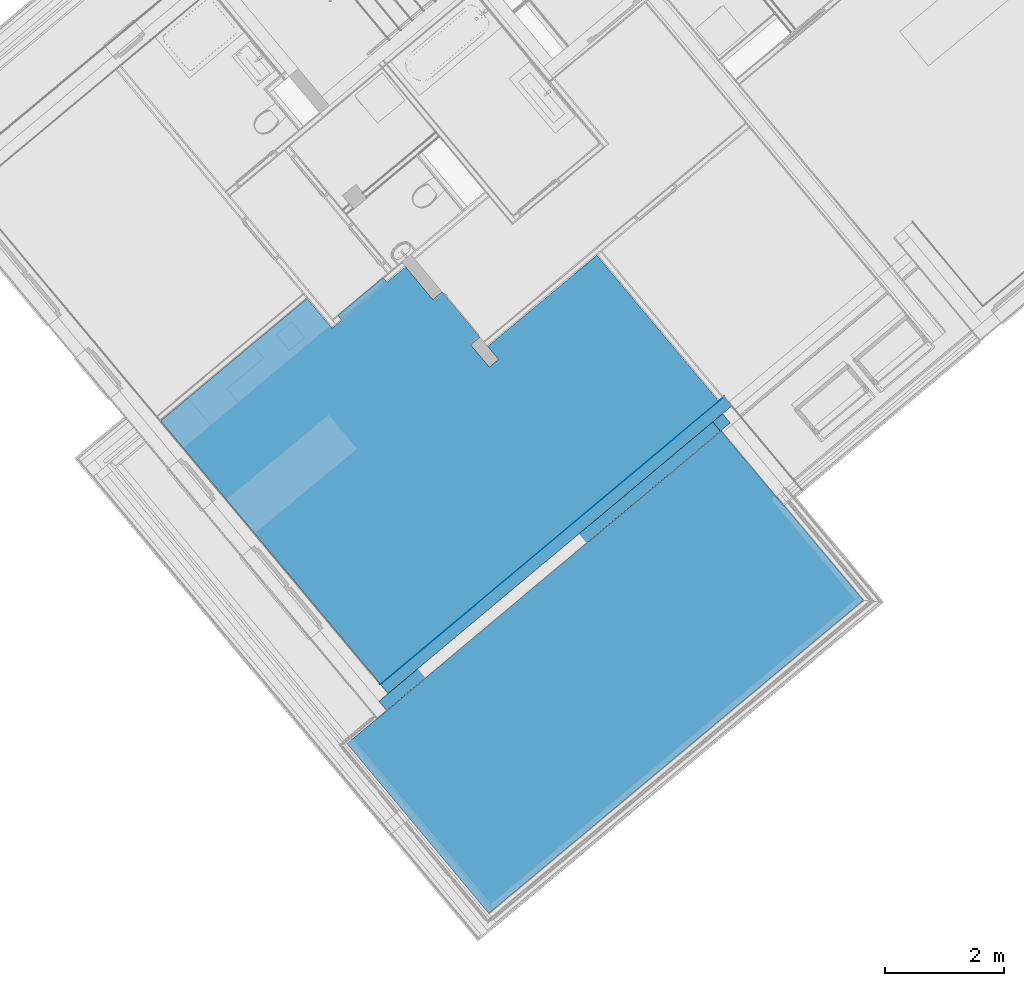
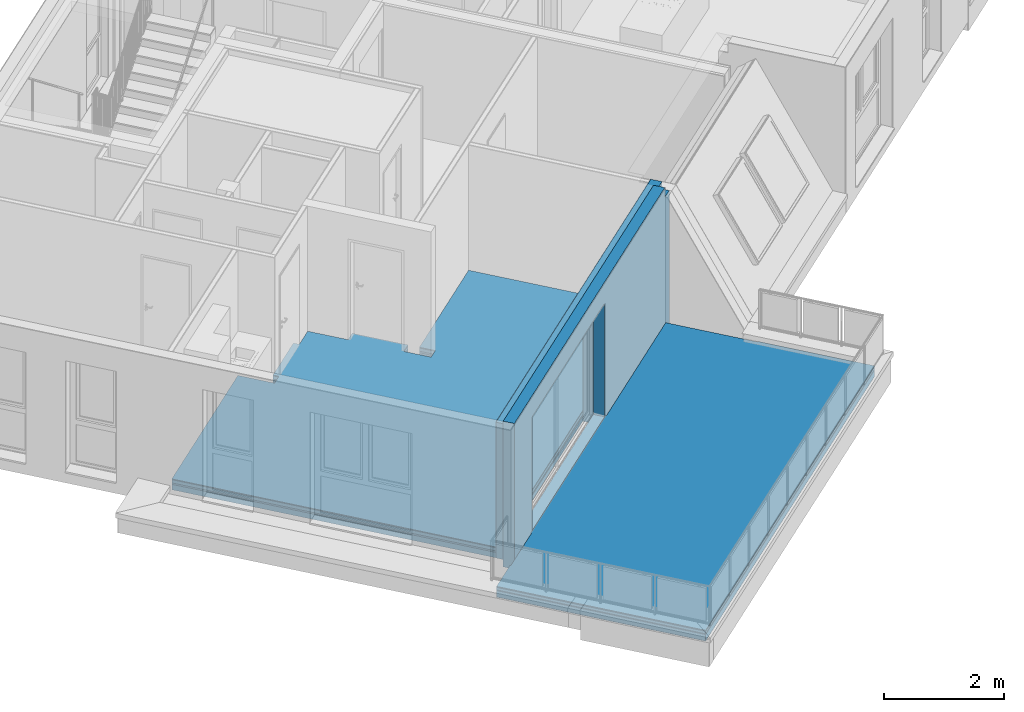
# One storey, part 19 of 58: 12 building element parts, 1 opening, 3 elements without a shape of their own.
"""IFC4 building model written with IfcOpenShell, lengths in metres."""

from ifc_helpers import new_model, entity, si_unit, converted_unit, derived_unit, direction, frame, origin_with_axes, place, context, subcontext, project, spatial, polygons, material, type_object, element, aggregate, save


model = new_model("IFC4")

# Units and contexts
model_context = context("Model", 3, precision=1e-05, world=origin_with_axes(), true_north=direction((0.0, 1.0)))
body_context = subcontext(model_context, "Body", "Model", "MODEL_VIEW")
ifc_project = project(units=[si_unit("LENGTHUNIT", "METRE"), si_unit("AREAUNIT", "SQUARE_METRE"), si_unit("VOLUMEUNIT", "CUBIC_METRE"), converted_unit("PLANEANGLEUNIT", "DEGREE", entity("IfcPlaneAngleMeasure", 0.0174532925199), si_unit("PLANEANGLEUNIT", "RADIAN"), dimensions=[0, 0, 0, 0, 0, 0, 0]), converted_unit("TIMEUNIT", "Year", entity("IfcTimeMeasure", 31556926.0), si_unit("TIMEUNIT", "SECOND"), dimensions=[0, 0, 1, 0, 0, 0, 0]), si_unit("MASSUNIT", "GRAM", prefix="KILO"), si_unit("THERMODYNAMICTEMPERATUREUNIT", "DEGREE_CELSIUS"), si_unit("LUMINOUSINTENSITYUNIT", "LUMEN"), si_unit("ENERGYUNIT", "JOULE", prefix="MEGA"), derived_unit("THERMALCONDUCTANCEUNIT", [(si_unit("POWERUNIT", "WATT"), 1), (si_unit("LENGTHUNIT", "METRE"), -1), (si_unit("THERMODYNAMICTEMPERATUREUNIT", "KELVIN"), -1)]), derived_unit("SPECIFICHEATCAPACITYUNIT", [(si_unit("ENERGYUNIT", "JOULE"), 1), (si_unit("MASSUNIT", "GRAM", prefix="KILO"), -1), (si_unit("THERMODYNAMICTEMPERATUREUNIT", "KELVIN"), -1)]), derived_unit("MASSDENSITYUNIT", [(si_unit("MASSUNIT", "GRAM", prefix="KILO"), 1), (si_unit("VOLUMEUNIT", "CUBIC_METRE"), -1)])], contexts=[model_context])

# Site, building, storey
site_placement = place(None, frame((-0.00153261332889, -0.00661245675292, 0.0), z_axis=(0.0, 0.0, 1.0), x_axis=(1.0, 0.0, 0.0)))
site = spatial("IfcSite", under=ifc_project, at=site_placement, Name="Site", CompositionType="ELEMENT")
building_placement = place(site_placement, origin_with_axes())
building = spatial("IfcBuilding", under=site, at=building_placement, Name="Building", CompositionType="ELEMENT")
storey_placement = place(building_placement, frame((0.0, 0.0, 5.7), z_axis=(0.0, 0.0, 1.0), x_axis=(1.0, 0.0, 0.0)))
storey = spatial("IfcBuildingStorey", under=building, at=storey_placement, Name="DG1", CompositionType="ELEMENT", Elevation=5.7)

# Wall, opening, building element parts
wall_type = type_object("IfcWallType", Name="AW EG 420", PredefinedType="NOTDEFINED")
wall_placement = place(storey_placement, frame((4.49965389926, 14.9497476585, 0.0), z_axis=(0.0, 0.0, 1.0), x_axis=(-0.766948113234, -0.641709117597, 0.0)))
wall = element("IfcWall", 1, at=wall_placement, inside=storey, type_object=wall_type, Name="Wand-002", PredefinedType="NOTDEFINED")
opening_placement = place(wall_placement, frame((4.68267663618, 0.0, 0.22), z_axis=(0.0, 0.0, 1.0), x_axis=(1.0, 0.0, 0.0)))
element("IfcOpeningElement", 2, at=opening_placement, cuts=wall, Name="Tür-001", context=body_context, identifier="Reference", shape_type="Tessellation", body=[
    polygons([(-1.76598893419, -0.215, 0.0), (-1.76598893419, -0.215, 2.31), (-1.76598893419, 3.69570777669, 2.31), (-1.76598893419, 3.69570777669, 0.0), (1.81598893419, -0.215, -0.22), (-1.81598893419, -0.215, -0.22), (-1.81598893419, -0.215, 2.36), (1.81598893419, -0.215, 2.36), (1.76598893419, -0.215, 2.31), (1.76598893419, -0.215, 0.0), (1.76598893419, 3.69570777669, 2.31), (1.76598893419, 3.69570777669, 0.0), (1.81598893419, -4.11570777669, -0.22), (-1.81598893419, -4.11570777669, -0.22), (-1.81598893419, -4.11570777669, 2.36), (1.81598893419, -4.11570777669, 2.36)], [[[1, 2, 3, 4]], [[5, 6, 7, 8], [9, 2, 1, 10]], [[2, 9, 11, 3]], [[11, 12, 4, 3]], [[10, 1, 4, 12]], [[6, 5, 13, 14]], [[7, 6, 14, 15]], [[8, 7, 15, 16]], [[5, 8, 16, 13]], [[9, 10, 12, 11]], [[15, 14, 13, 16]]], closed=True),
])
ifc_material_1 = material(Name="EPS 1")
building_element_part_1_placement = place(wall_placement, origin_with_axes())
building_element_part_1 = element("IfcBuildingElementPart", 3, at=building_element_part_1_placement, material=ifc_material_1, Name="EPS 1", PredefinedType="NOTDEFINED", context=body_context, shape_type="Tessellation", body=[
    polygons([(7.29202390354, -0.215, 0.0), (7.29202390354, -0.214999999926, 2.95999999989), (0.0, -0.214999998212, 2.95999999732), (0.0, -0.214999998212, 2.76), (-0.214988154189, -0.214999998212, 2.76), (-0.214988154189, -0.215, 0.0), (6.44866557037, -0.215, 0.22), (2.91668770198, -0.215, 0.22), (2.91668770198, -0.215, 2.53), (6.44866557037, -0.215, 2.53), (7.29215414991, -0.015, 0.0), (7.29215414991, -0.015000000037, 2.95999999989), (0.0, -0.0150000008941, 2.95999999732), (0.0, -0.0150000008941, 2.76), (-0.214999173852, -0.0150000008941, 2.76), (-0.214999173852, -0.015, 0.0), (6.44866557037, -0.015, 0.22), (2.91668770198, -0.015, 0.22), (2.91668770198, -0.015, 2.53), (6.44866557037, -0.015, 2.53)], [[[1, 2, 3, 4, 5, 6], [7, 8, 9, 10]], [[11, 12, 2, 1]], [[12, 13, 3, 2]], [[4, 3, 13, 14]], [[15, 5, 4, 14]], [[5, 15, 16, 6]], [[6, 16, 11, 1]], [[17, 18, 8, 7]], [[18, 19, 9, 8]], [[19, 20, 10, 9]], [[20, 17, 7, 10]], [[14, 13, 12, 11, 16, 15], [17, 20, 19, 18]]], closed=True),
])
ifc_material_2 = material(Name="Stahlbeton Wand")
building_element_part_2_placement = place(wall_placement, origin_with_axes())
building_element_part_2 = element("IfcBuildingElementPart", 4, at=building_element_part_2_placement, material=ifc_material_2, Name="Stahlbeton Wand", PredefinedType="NOTDEFINED", context=body_context, shape_type="Tessellation", body=[
    polygons([(6.49866557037, -0.215, 0.0), (6.49866557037, -0.215, 2.58), (2.86668770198, -0.215, 2.58), (2.86668770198, -0.215, 0.0), (-0.414988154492, -0.215, 0.0), (-0.414988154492, -0.214999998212, 2.76), (-4.05371736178e-10, -0.214999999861, 2.76), (7.09202386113, -0.21499999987, 2.76), (7.09202386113, -0.215, 0.0), (6.49866557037, -0.415, 0.0), (6.49866557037, -0.415000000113, 2.58), (2.86668770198, -0.415000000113, 2.58), (2.86668770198, -0.415, 0.0), (-0.414977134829, -0.415, 0.0), (-0.414977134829, -0.415000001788, 2.76), (-4.05620426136e-10, -0.415000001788, 2.76), (7.09189361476, -0.415000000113, 2.76), (7.09189361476, -0.415, 0.0)], [[[1, 2, 3, 4, 5, 6, 7, 8, 9]], [[2, 1, 10, 11]], [[3, 2, 11, 12]], [[4, 3, 12, 13]], [[4, 13, 14, 5]], [[15, 6, 5, 14]], [[7, 6, 15, 16]], [[7, 16, 17, 8]], [[17, 18, 9, 8]], [[10, 1, 9, 18]], [[11, 10, 18, 17, 16, 15, 14, 13, 12]]], closed=True),
])
ifc_material_3 = material(Name="Zementputz")
building_element_part_3_placement = place(wall_placement, origin_with_axes())
building_element_part_3 = element("IfcBuildingElementPart", 5, at=building_element_part_3_placement, material=ifc_material_3, Name="Zementputz", PredefinedType="NOTDEFINED", context=body_context, shape_type="Tessellation", body=[
    polygons([(6.49866557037, -0.415, 0.0), (6.49866557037, -0.415000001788, 2.58), (2.86668770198, -0.415000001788, 2.58), (2.86668770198, -0.415, 0.0), (-0.41997714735, -0.415, 0.0), (-0.41997714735, -0.415000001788, 2.76), (-4.05620426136e-10, -0.415000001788, 2.76), (7.0868936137, -0.415000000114, 2.76), (7.0868936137, -0.415, 0.0), (6.49866557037, -0.42, 0.0), (6.49866557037, -0.42, 2.58), (2.86668770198, -0.42, 2.58), (2.86668770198, -0.42, 0.0), (-0.419976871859, -0.42, 0.0), (-0.419976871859, -0.42, 2.76), (-4.05627531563e-10, -0.42, 2.76), (7.08689035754, -0.42, 2.76), (7.08689035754, -0.42, 0.0)], [[[1, 2, 3, 4, 5, 6, 7, 8, 9]], [[2, 1, 10, 11]], [[3, 2, 11, 12]], [[4, 3, 12, 13]], [[4, 13, 14, 5]], [[15, 6, 5, 14]], [[7, 6, 15, 16]], [[7, 16, 17, 8]], [[17, 18, 9, 8]], [[10, 1, 9, 18]], [[11, 10, 18, 17, 16, 15, 14, 13, 12]]], closed=True),
])
aggregate(wall, [building_element_part_1, building_element_part_2, building_element_part_3])

# Covering, building element parts
covering_type_1 = type_object("IfcCoveringType", Name="DE 01 Decke Wohnung/Wohnung Parkett 220", PredefinedType="NOTDEFINED")
covering_1_placement = place(storey_placement, frame((-4.88832538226, 15.1319849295, 0.22), z_axis=(0.0, 0.0, 1.0), x_axis=(1.0, 0.0, 0.0)))
covering_1 = element("IfcCovering", 6, at=covering_1_placement, inside=storey, type_object=covering_type_1, Name="Decke-008", PredefinedType="NOTDEFINED")
ifc_material_4 = material(Name="Parkett")
building_element_part_4_placement = place(covering_1_placement, origin_with_axes())
building_element_part_4 = element("IfcBuildingElementPart", 7, at=building_element_part_4_placement, material=ifc_material_4, Name="Parkett", PredefinedType="NOTDEFINED", context=body_context, shape_type="Tessellation", body=[
    polygons([(0.0, 0.0, -0.015), (3.68318425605, -4.40784122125, -0.015), (3.68318425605, -4.40784122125, 0.0), (0.0, 0.0, 0.0), (2.45576532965, 2.05203304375, -0.015), (2.87252505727, 1.55327700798, -0.015), (3.03331538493, 1.68763313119, -0.015), (2.96598833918, 1.76820646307, -0.015), (3.72568074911, 2.40300390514, -0.015), (3.79300751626, 2.32243043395, -0.015), (4.10363968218, 2.5819939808, -0.015), (4.56187746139, 2.03359898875, -0.015), (4.71535064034, 2.16184070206, -0.015), (5.3501480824, 1.40214857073, -0.015), (5.19667504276, 1.27390657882, -0.015), (5.50670834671, 0.902875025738, -0.015), (5.66018152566, 1.03111687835, -0.015), (5.47926224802, 1.24763159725, -0.015), (7.30728511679, 2.7751242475, -0.015), (9.34843166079, 0.332387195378, -0.015), (7.36805769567, -1.32469018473, -0.015), (7.36805769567, -1.32469018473, 0.0), (2.45576532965, 2.05203304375, 0.0), (9.34843166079, 0.332387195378, 0.0), (7.30728511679, 2.7751242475, 0.0), (5.47926224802, 1.24763159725, 0.0), (5.66018152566, 1.03111687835, 0.0), (5.50670834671, 0.902875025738, 0.0), (5.19667504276, 1.27390657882, 0.0), (5.3501480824, 1.40214857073, 0.0), (4.71535064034, 2.16184070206, 0.0), (4.56187746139, 2.03359898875, 0.0), (4.10363968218, 2.5819939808, 0.0), (3.79300751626, 2.32243043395, 0.0), (3.72568074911, 2.40300390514, 0.0), (2.96598833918, 1.76820646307, 0.0), (3.03331538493, 1.68763313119, 0.0), (2.87252505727, 1.55327700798, 0.0)], [[[1, 2, 3, 4]], [[2, 1, 5, 6, 7, 8, 9, 10, 11, 12, 13, 14, 15, 16, 17, 18, 19, 20, 21]], [[2, 21, 22, 3]], [[23, 4, 3, 22, 24, 25, 26, 27, 28, 29, 30, 31, 32, 33, 34, 35, 36, 37, 38]], [[5, 1, 4, 23]], [[6, 5, 23, 38]], [[7, 6, 38, 37]], [[8, 7, 37, 36]], [[9, 8, 36, 35]], [[10, 9, 35, 34]], [[11, 10, 34, 33]], [[12, 11, 33, 32]], [[13, 12, 32, 31]], [[14, 13, 31, 30]], [[15, 14, 30, 29]], [[16, 15, 29, 28]], [[17, 16, 28, 27]], [[18, 17, 27, 26]], [[19, 18, 26, 25]], [[20, 19, 25, 24]], [[21, 20, 24, 22]]], closed=True),
])
ifc_material_5 = material(Name="Estrich")
building_element_part_5_placement = place(covering_1_placement, origin_with_axes())
building_element_part_5 = element("IfcBuildingElementPart", 8, at=building_element_part_5_placement, material=ifc_material_5, Name="Estrich", PredefinedType="NOTDEFINED", context=body_context, shape_type="Tessellation", body=[
    polygons([(0.0, 0.0, -0.08), (3.68318425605, -4.40784122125, -0.08), (3.68318425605, -4.40784122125, -0.015), (0.0, 0.0, -0.015), (2.45576532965, 2.05203304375, -0.08), (2.87252505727, 1.55327700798, -0.08), (3.03331538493, 1.68763313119, -0.08), (2.96598833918, 1.76820646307, -0.08), (3.72568074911, 2.40300390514, -0.08), (3.79300751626, 2.32243043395, -0.08), (4.10363968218, 2.5819939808, -0.08), (4.56187746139, 2.03359898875, -0.08), (4.71535064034, 2.16184070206, -0.08), (5.3501480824, 1.40214857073, -0.08), (5.19667504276, 1.27390657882, -0.08), (5.50670834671, 0.902875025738, -0.08), (5.66018152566, 1.03111687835, -0.08), (5.47926224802, 1.24763159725, -0.08), (7.30728511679, 2.7751242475, -0.08), (9.34843166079, 0.332387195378, -0.08), (7.36805769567, -1.32469018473, -0.08), (7.36805769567, -1.32469018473, -0.015), (2.45576532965, 2.05203304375, -0.015), (9.34843166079, 0.332387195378, -0.015), (7.30728511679, 2.7751242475, -0.015), (5.47926224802, 1.24763159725, -0.015), (5.66018152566, 1.03111687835, -0.015), (5.50670834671, 0.902875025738, -0.015), (5.19667504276, 1.27390657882, -0.015), (5.3501480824, 1.40214857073, -0.015), (4.71535064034, 2.16184070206, -0.015), (4.56187746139, 2.03359898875, -0.015), (4.10363968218, 2.5819939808, -0.015), (3.79300751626, 2.32243043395, -0.015), (3.72568074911, 2.40300390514, -0.015), (2.96598833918, 1.76820646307, -0.015), (3.03331538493, 1.68763313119, -0.015), (2.87252505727, 1.55327700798, -0.015)], [[[1, 2, 3, 4]], [[2, 1, 5, 6, 7, 8, 9, 10, 11, 12, 13, 14, 15, 16, 17, 18, 19, 20, 21]], [[2, 21, 22, 3]], [[23, 4, 3, 22, 24, 25, 26, 27, 28, 29, 30, 31, 32, 33, 34, 35, 36, 37, 38]], [[5, 1, 4, 23]], [[6, 5, 23, 38]], [[7, 6, 38, 37]], [[8, 7, 37, 36]], [[9, 8, 36, 35]], [[10, 9, 35, 34]], [[11, 10, 34, 33]], [[12, 11, 33, 32]], [[13, 12, 32, 31]], [[14, 13, 31, 30]], [[15, 14, 30, 29]], [[16, 15, 29, 28]], [[17, 16, 28, 27]], [[18, 17, 27, 26]], [[19, 18, 26, 25]], [[20, 19, 25, 24]], [[21, 20, 24, 22]]], closed=True),
])
ifc_material_6 = material(Name="Trittschalldämmung")
building_element_part_6_placement = place(covering_1_placement, origin_with_axes())
building_element_part_6 = element("IfcBuildingElementPart", 9, at=building_element_part_6_placement, material=ifc_material_6, Name="Trittschalldämmung", PredefinedType="NOTDEFINED", context=body_context, shape_type="Tessellation", body=[
    polygons([(0.0, 0.0, -0.11), (3.68318425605, -4.40784122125, -0.11), (3.68318425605, -4.40784122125, -0.08), (0.0, 0.0, -0.08), (2.45576532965, 2.05203304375, -0.11), (2.87252505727, 1.55327700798, -0.11), (3.03331538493, 1.68763313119, -0.11), (2.96598833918, 1.76820646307, -0.11), (3.72568074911, 2.40300390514, -0.11), (3.79300751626, 2.32243043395, -0.11), (4.10363968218, 2.5819939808, -0.11), (4.56187746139, 2.03359898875, -0.11), (4.71535064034, 2.16184070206, -0.11), (5.3501480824, 1.40214857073, -0.11), (5.19667504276, 1.27390657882, -0.11), (5.50670834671, 0.902875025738, -0.11), (5.66018152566, 1.03111687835, -0.11), (5.47926224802, 1.24763159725, -0.11), (7.30728511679, 2.7751242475, -0.11), (9.34843166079, 0.332387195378, -0.11), (7.36805769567, -1.32469018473, -0.11), (7.36805769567, -1.32469018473, -0.08), (2.45576532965, 2.05203304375, -0.08), (9.34843166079, 0.332387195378, -0.08), (7.30728511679, 2.7751242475, -0.08), (5.47926224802, 1.24763159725, -0.08), (5.66018152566, 1.03111687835, -0.08), (5.50670834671, 0.902875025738, -0.08), (5.19667504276, 1.27390657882, -0.08), (5.3501480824, 1.40214857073, -0.08), (4.71535064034, 2.16184070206, -0.08), (4.56187746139, 2.03359898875, -0.08), (4.10363968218, 2.5819939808, -0.08), (3.79300751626, 2.32243043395, -0.08), (3.72568074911, 2.40300390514, -0.08), (2.96598833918, 1.76820646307, -0.08), (3.03331538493, 1.68763313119, -0.08), (2.87252505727, 1.55327700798, -0.08)], [[[1, 2, 3, 4]], [[2, 1, 5, 6, 7, 8, 9, 10, 11, 12, 13, 14, 15, 16, 17, 18, 19, 20, 21]], [[2, 21, 22, 3]], [[23, 4, 3, 22, 24, 25, 26, 27, 28, 29, 30, 31, 32, 33, 34, 35, 36, 37, 38]], [[5, 1, 4, 23]], [[6, 5, 23, 38]], [[7, 6, 38, 37]], [[8, 7, 37, 36]], [[9, 8, 36, 35]], [[10, 9, 35, 34]], [[11, 10, 34, 33]], [[12, 11, 33, 32]], [[13, 12, 32, 31]], [[14, 13, 31, 30]], [[15, 14, 30, 29]], [[16, 15, 29, 28]], [[17, 16, 28, 27]], [[18, 17, 27, 26]], [[19, 18, 26, 25]], [[20, 19, 25, 24]], [[21, 20, 24, 22]]], closed=True),
])
ifc_material_7 = material(Name="Schüttung")
building_element_part_7_placement = place(covering_1_placement, origin_with_axes())
building_element_part_7 = element("IfcBuildingElementPart", 10, at=building_element_part_7_placement, material=ifc_material_7, Name="Schüttung", PredefinedType="NOTDEFINED", context=body_context, shape_type="Tessellation", body=[
    polygons([(0.0, 0.0, -0.11), (0.0, 0.0, -0.22), (3.68318425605, -4.40784122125, -0.22), (3.68318425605, -4.40784122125, -0.11), (2.45576532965, 2.05203304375, -0.11), (2.45576532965, 2.05203304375, -0.22), (2.87252505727, 1.55327700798, -0.22), (3.03331538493, 1.68763313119, -0.22), (2.96598833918, 1.76820646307, -0.22), (3.72568074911, 2.40300390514, -0.22), (3.79300751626, 2.32243043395, -0.22), (4.10363968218, 2.5819939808, -0.22), (4.56187746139, 2.03359898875, -0.22), (4.71535064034, 2.16184070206, -0.22), (5.3501480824, 1.40214857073, -0.22), (5.19667504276, 1.27390657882, -0.22), (5.50670834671, 0.902875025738, -0.22), (5.66018152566, 1.03111687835, -0.22), (5.47926224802, 1.24763159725, -0.22), (7.30728511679, 2.7751242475, -0.22), (9.34843166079, 0.332387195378, -0.22), (7.36805769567, -1.32469018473, -0.22), (7.36805769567, -1.32469018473, -0.11), (9.34843166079, 0.332387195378, -0.11), (7.30728511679, 2.7751242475, -0.11), (5.47926224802, 1.24763159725, -0.11), (5.66018152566, 1.03111687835, -0.11), (5.50670834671, 0.902875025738, -0.11), (5.19667504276, 1.27390657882, -0.11), (5.3501480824, 1.40214857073, -0.11), (4.71535064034, 2.16184070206, -0.11), (4.56187746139, 2.03359898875, -0.11), (4.10363968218, 2.5819939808, -0.11), (3.79300751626, 2.32243043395, -0.11), (3.72568074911, 2.40300390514, -0.11), (2.96598833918, 1.76820646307, -0.11), (3.03331538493, 1.68763313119, -0.11), (2.87252505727, 1.55327700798, -0.11)], [[[1, 2, 3, 4]], [[5, 6, 2, 1]], [[3, 2, 6, 7, 8, 9, 10, 11, 12, 13, 14, 15, 16, 17, 18, 19, 20, 21, 22]], [[4, 3, 22, 23]], [[5, 1, 4, 23, 24, 25, 26, 27, 28, 29, 30, 31, 32, 33, 34, 35, 36, 37, 38]], [[38, 7, 6, 5]], [[37, 8, 7, 38]], [[36, 9, 8, 37]], [[35, 10, 9, 36]], [[34, 11, 10, 35]], [[33, 12, 11, 34]], [[32, 13, 12, 33]], [[31, 14, 13, 32]], [[30, 15, 14, 31]], [[29, 16, 15, 30]], [[28, 17, 16, 29]], [[27, 18, 17, 28]], [[26, 19, 18, 27]], [[25, 20, 19, 26]], [[24, 21, 20, 25]], [[23, 22, 21, 24]]], closed=True),
])
aggregate(covering_1, [building_element_part_4, building_element_part_5, building_element_part_6, building_element_part_7])

covering_type_2 = type_object("IfcCoveringType", Name="Balkon vor Terrasse 220", PredefinedType="NOTDEFINED")
covering_2_placement = place(storey_placement, frame((-1.25606528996, 10.1534682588, 0.0), z_axis=(0.0, 0.0, 1.0), x_axis=(1.0, 0.0, 0.0)))
covering_2 = element("IfcCovering", 11, at=covering_2_placement, inside=storey, type_object=covering_type_2, Name="Decke-005", PredefinedType="NOTDEFINED")
ifc_material_8 = material(Name="Platten")
building_element_part_8_placement = place(covering_2_placement, origin_with_axes())
building_element_part_8 = element("IfcBuildingElementPart", 12, at=building_element_part_8_placement, material=ifc_material_8, Name="Platten", PredefinedType="NOTDEFINED", context=body_context, shape_type="Tessellation", body=[
    polygons([(-0.00188604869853, -0.0211361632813, 0.22), (-0.00188604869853, -0.0211361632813, 0.2), (-0.0115142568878, -0.00961362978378, 0.2), (-0.0115142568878, -0.00961362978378, 0.22), (0.00961817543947, -0.0115105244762, 0.2), (0.00961817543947, -0.0115105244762, 0.22), (0.771579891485, 0.626026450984, 0.2), (0.761954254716, 0.637530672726, 0.2), (3.54749281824, 2.96820399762, 0.2), (3.55711846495, 2.95669976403, 0.2), (5.75571918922, 4.7962793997, 0.2), (6.7969874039, 3.55193165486, 0.2), (6.80849104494, 3.56155793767, 0.2), (6.81075734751, 3.56345437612, 0.2), (8.14149462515, 1.9730042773, 0.2), (1.86638794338, -3.27175307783, 0.2), (-0.509869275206, -0.425706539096, 0.2), (-0.509869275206, -0.425706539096, 0.22), (1.86638794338, -3.27175307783, 0.22), (8.14149462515, 1.9730042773, 0.22), (6.81075734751, 3.56345437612, 0.22), (6.80849104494, 3.56155793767, 0.22), (6.7969874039, 3.55193165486, 0.22), (5.75571918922, 4.7962793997, 0.22), (3.55711846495, 2.95669976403, 0.22), (3.54749281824, 2.96820399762, 0.22), (0.761954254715, 0.637530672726, 0.22), (0.771579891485, 0.626026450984, 0.22)], [[[1, 2, 3, 4]], [[5, 2, 1, 6]], [[2, 5, 7, 8, 9, 10, 11, 12, 13, 14, 15, 16, 17, 3]], [[17, 18, 4, 3]], [[4, 18, 19, 20, 21, 22, 23, 24, 25, 26, 27, 28, 6, 1]], [[5, 6, 28, 7]], [[8, 7, 28, 27]], [[8, 27, 26, 9]], [[10, 9, 26, 25]], [[10, 25, 24, 11]], [[23, 12, 11, 24]], [[22, 13, 12, 23]], [[13, 22, 21, 14]], [[20, 15, 14, 21]], [[19, 16, 15, 20]], [[18, 17, 16, 19]]], closed=True),
])
ifc_material_9 = material(Name="Luftschicht horizontal")
building_element_part_9_placement = place(covering_2_placement, origin_with_axes())
building_element_part_9 = element("IfcBuildingElementPart", 13, at=building_element_part_9_placement, material=ifc_material_9, Name="Luftschicht horizontal", PredefinedType="NOTDEFINED", context=body_context, shape_type="Tessellation", body=[
    polygons([(-0.00188604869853, -0.0211361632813, 0.2), (-0.00188604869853, -0.0211361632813, 0.15), (-0.0115142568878, -0.00961362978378, 0.15), (-0.0115142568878, -0.00961362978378, 0.2), (0.00961817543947, -0.0115105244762, 0.15), (0.00961817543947, -0.0115105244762, 0.2), (0.771579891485, 0.626026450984, 0.15), (0.761954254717, 0.637530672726, 0.15), (3.54749281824, 2.96820399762, 0.15), (3.55711846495, 2.95669976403, 0.15), (5.75571918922, 4.7962793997, 0.15), (6.7969874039, 3.55193165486, 0.15), (6.80849104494, 3.56155793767, 0.15), (6.81075734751, 3.56345437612, 0.15), (8.14149462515, 1.9730042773, 0.15), (1.86638794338, -3.27175307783, 0.15), (-0.509869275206, -0.425706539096, 0.15), (-0.509869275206, -0.425706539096, 0.2), (1.86638794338, -3.27175307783, 0.2), (8.14149462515, 1.9730042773, 0.2), (6.81075734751, 3.56345437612, 0.2), (6.80849104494, 3.56155793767, 0.2), (6.7969874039, 3.55193165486, 0.2), (5.75571918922, 4.7962793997, 0.2), (3.55711846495, 2.95669976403, 0.2), (3.54749281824, 2.96820399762, 0.2), (0.761954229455, 0.63753070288, 0.2), (0.771579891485, 0.626026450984, 0.2)], [[[1, 2, 3, 4]], [[5, 2, 1, 6]], [[2, 5, 7, 8, 9, 10, 11, 12, 13, 14, 15, 16, 17, 3]], [[17, 18, 4, 3]], [[4, 18, 19, 20, 21, 22, 23, 24, 25, 26, 27, 28, 6, 1]], [[5, 6, 28, 7]], [[8, 7, 28, 27]], [[8, 27, 26, 9]], [[10, 9, 26, 25]], [[10, 25, 24, 11]], [[23, 12, 11, 24]], [[22, 13, 12, 23]], [[13, 22, 21, 14]], [[20, 15, 14, 21]], [[19, 16, 15, 20]], [[18, 17, 16, 19]]], closed=True),
])
ifc_material_10 = material(Name="Sperrschicht")
building_element_part_10_placement = place(covering_2_placement, origin_with_axes())
building_element_part_10 = element("IfcBuildingElementPart", 14, at=building_element_part_10_placement, material=ifc_material_10, Name="Sperrschicht", PredefinedType="NOTDEFINED", context=body_context, shape_type="Tessellation", body=[
    polygons([(-0.509869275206, -0.425706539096, 0.135), (-0.509869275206, -0.425706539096, 0.15), (0.0, 0.0, 0.15), (0.0, 0.0, 0.135), (1.86638794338, -3.27175307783, 0.135), (1.86638794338, -3.27175307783, 0.15), (8.14149462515, 1.9730042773, 0.15), (6.81075734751, 3.56345437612, 0.15), (6.80849104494, 3.56155793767, 0.15), (5.75759710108, 4.81740869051, 0.15), (5.75759710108, 4.81740869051, 0.135), (6.80849104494, 3.56155793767, 0.135), (6.81075734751, 3.56345437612, 0.135), (8.14149462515, 1.9730042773, 0.135)], [[[1, 2, 3, 4]], [[5, 6, 2, 1]], [[3, 2, 6, 7, 8, 9, 10]], [[4, 3, 10, 11]], [[4, 11, 12, 13, 14, 5, 1]], [[14, 7, 6, 5]], [[13, 8, 7, 14]], [[12, 9, 8, 13]], [[11, 10, 9, 12]]], closed=True),
])
ifc_material_11 = material(Name="XPS")
building_element_part_11_placement = place(covering_2_placement, origin_with_axes())
building_element_part_11 = element("IfcBuildingElementPart", 15, at=building_element_part_11_placement, material=ifc_material_11, Name="XPS", PredefinedType="NOTDEFINED", context=body_context, shape_type="Tessellation", body=[
    polygons([(-0.509869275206, -0.425706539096, 0.005), (-0.509869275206, -0.425706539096, 0.135), (0.0, 0.0, 0.135), (0.0, 0.0, 0.005), (1.86638794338, -3.27175307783, 0.005), (1.86638794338, -3.27175307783, 0.135), (8.14149462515, 1.9730042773, 0.135), (6.81075734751, 3.56345437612, 0.135), (6.80849104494, 3.56155793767, 0.135), (5.75759710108, 4.81740869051, 0.135), (5.75759710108, 4.81740869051, 0.005), (6.80849104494, 3.56155793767, 0.005), (6.81075734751, 3.56345437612, 0.005), (8.14149462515, 1.9730042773, 0.005)], [[[1, 2, 3, 4]], [[5, 6, 2, 1]], [[3, 2, 6, 7, 8, 9, 10]], [[4, 3, 10, 11]], [[4, 11, 12, 13, 14, 5, 1]], [[14, 7, 6, 5]], [[13, 8, 7, 14]], [[12, 9, 8, 13]], [[11, 10, 9, 12]]], closed=True),
])
building_element_part_12_placement = place(covering_2_placement, origin_with_axes())
building_element_part_12 = element("IfcBuildingElementPart", 16, at=building_element_part_12_placement, material=ifc_material_10, Name="Sperrschicht", PredefinedType="NOTDEFINED", context=body_context, shape_type="Tessellation", body=[
    polygons([(0.0, 0.0, 0.0), (-0.509869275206, -0.425706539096, 0.0), (-0.509869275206, -0.425706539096, 0.005), (0.0, 0.0, 0.005), (5.75759710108, 4.81740869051, 0.0), (6.80849104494, 3.56155793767, 0.0), (6.81075734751, 3.56345437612, 0.0), (8.14149462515, 1.9730042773, 0.0), (1.86638794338, -3.27175307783, 0.0), (1.86638794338, -3.27175307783, 0.005), (8.14149462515, 1.9730042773, 0.005), (6.81075734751, 3.56345437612, 0.005), (6.80849104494, 3.56155793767, 0.005), (5.75759710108, 4.81740869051, 0.005)], [[[1, 2, 3, 4]], [[1, 5, 6, 7, 8, 9, 2]], [[2, 9, 10, 3]], [[4, 3, 10, 11, 12, 13, 14]], [[5, 1, 4, 14]], [[6, 5, 14, 13]], [[7, 6, 13, 12]], [[8, 7, 12, 11]], [[9, 8, 11, 10]]], closed=True),
])
aggregate(covering_2, [building_element_part_8, building_element_part_9, building_element_part_10, building_element_part_11, building_element_part_12])

save(model, "model.ifc")
